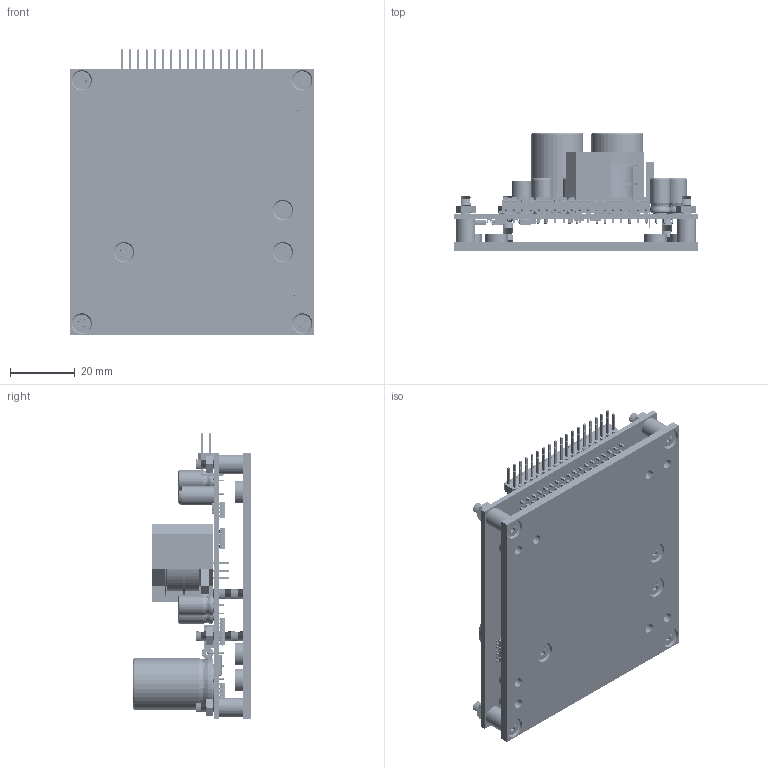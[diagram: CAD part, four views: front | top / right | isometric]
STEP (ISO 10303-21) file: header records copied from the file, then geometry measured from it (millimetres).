
FILE_DESCRIPTION (( 'STEP AP214' ), '1' );
FILE_NAME ('UcD400 OEM 08xx.STEP', '2020-11-17T15:08:32', ( '' ), ( '' ), 'SwSTEP 2.0', 'SolidWorks 2017', '' );
FILE_SCHEMA (( 'AUTOMOTIVE_DESIGN' ));
Length unit declared in the file: millimetre
Products named in the file (63): 836847088; Extruded; PCB UcD400OEM 0802_NOSMD; U1; C14; C28; L5; Push-in nut; L6; Extruded_7; Extruded_5; T17; T41; C36; ECAP_16x25_7.5; Cylinder; C25; T33; Rvdr; SOIC14; 836848584; L3; C13; Extruded_6; Extruded_4; SW3dPS-0805_SMD_Resistor; 836845864; 836846000; Extruded_3; C18; Hsink SAA8L8W0H3T1; T32; R121; Board; R100; Extruded_2; R122; U2; L1; nut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
Assembly tree (104 placements, depth 5):
  UcD400 OEM 08xx
    Hsink SAA8L8W0H3T1
      UcD400OEM Sink2 R1_USA
      Push-in nut  x8
    PCB UcD400OEM 0802_NOSMD
      Board
      T41
        836835936
          Extruded
        836845728  x3
          Extruded_2
        836845864  x4
          Extruded_3
      Rvdr
        SW3dPS-0805_SMD_Resistor
      C13
        ECAP_16x25_7.5
      C14
        ECAP_6.3x11_2.5
      C18
        ECAP_6.3x11_2.5
      C25
        ECAP_6.3x11_2.5
      C28
        ECAP_16x25_7.5
      C35
        644354832
          Cylinder
      C36
        644354832
          Cylinder
      L1
        BEAD_AX_3.6x5_10
      L2
        BEAD_AX_3.6x5_10
      L3
        836848584
          Extruded_4
        836848856  x2
          Extruded_5
        836846000
          Extruded_6
        836846136
          Extruded_7
      L5
        BEAD_AX_3.6x5_10
      L6
        BEAD_AX_3.6x5_10
      R100
        SW3dPS-0805_SMD_Resistor
      T17
        836847088
          Extruded_8
      T22
        836847088
          Extruded_8
      U1
        SW3dPS-so-8
      U2
        SOIC14
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Bounding box: 75 x 36.39 x 88.12 mm (x, y, z)
Volume: 50195.5 mm3; surface area: 46706.6 mm2
Topology: 75 solids, 139 shells, 7315 faces, 16382 edges, 9202 vertices
Faces by surface type: cone 4284, plane 1924, cylinder 785, bspline 294, torus 28
Entity records: 108348 total; most frequent: CARTESIAN_POINT 17934, DIRECTION 13911, ORIENTED_EDGE 13000, EDGE_CURVE 6768, VECTOR 4889, LINE 4889, AXIS2_PLACEMENT_3D 4511, VERTEX_POINT 4142
